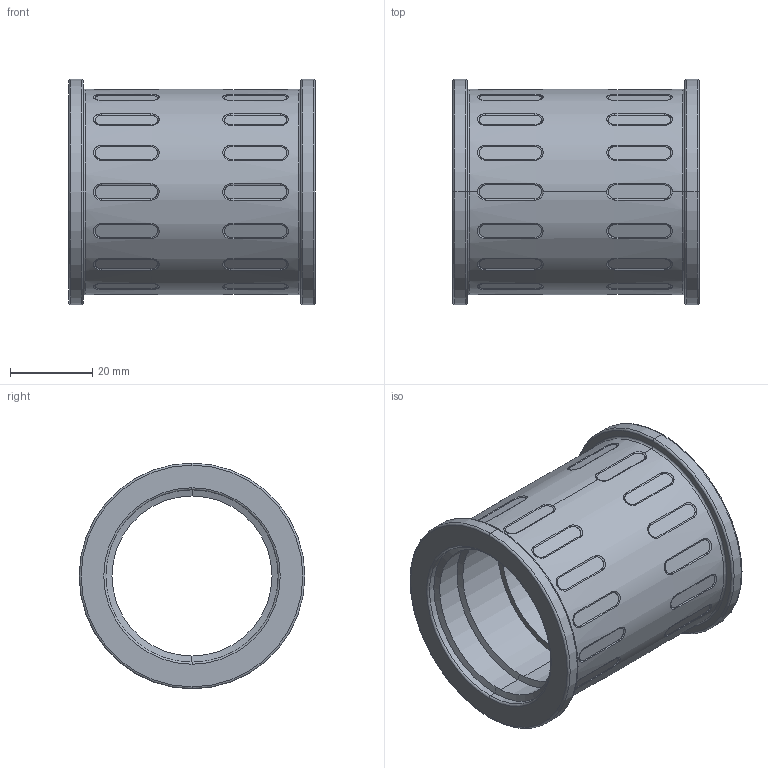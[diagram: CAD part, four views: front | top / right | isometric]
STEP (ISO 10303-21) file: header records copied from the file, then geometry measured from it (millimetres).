
FILE_DESCRIPTION (( 'STEP AP214' ), '1' );
FILE_NAME ('0000005180.STEP', '2017-04-05T05:34:39', ( 'HP' ), ( 'Hewlett-Packard Company' ), 'SwSTEP 2.0', 'SolidWorks 2014', '' );
FILE_SCHEMA (( 'AUTOMOTIVE_DESIGN' ));
Length unit declared in the file: millimetre
Products named in the file (1): 0000005180
Bounding box: 60 x 55 x 55 mm (x, y, z)
Volume: 39891.3 mm3; surface area: 21372.7 mm2
Topology: 1 solids, 1 shells, 222 faces, 524 edges, 336 vertices
Faces by surface type: cylinder 88, bspline 64, plane 38, torus 16, cone 16
Entity records: 14258 total; most frequent: CARTESIAN_POINT 9427, ORIENTED_EDGE 1048, DIRECTION 922, EDGE_CURVE 524, AXIS2_PLACEMENT_3D 375, VERTEX_POINT 336, EDGE_LOOP 256, ADVANCED_FACE 222
